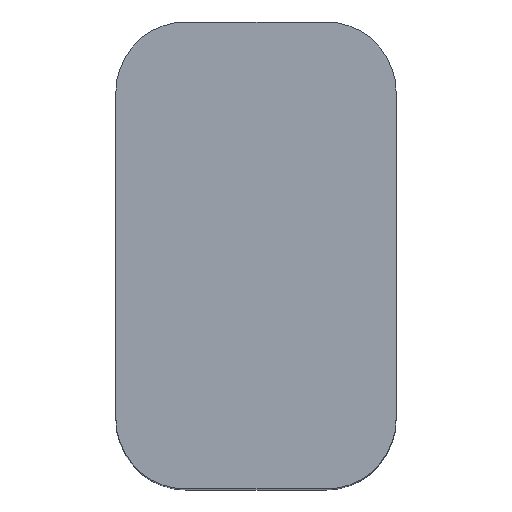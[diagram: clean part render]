
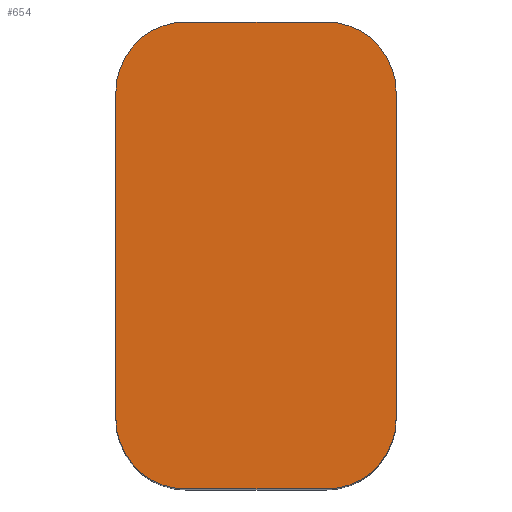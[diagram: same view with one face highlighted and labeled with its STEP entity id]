
A CAD part, top view. The second image highlights one B-rep face of the part: STEP entity #654.
In plain terms, the highlighted planar face has unit normal (0, 0, 1).
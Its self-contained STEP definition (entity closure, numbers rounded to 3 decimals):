
#24 = VERTEX_POINT('',#25);
#25 = CARTESIAN_POINT('',(-33.5,-27.1,-13.8));
#32 = PLANE('',#33);
#33 = AXIS2_PLACEMENT_3D('',#34,#35,#36);
#34 = CARTESIAN_POINT('',(-33.5,-27.1,-21.4));
#35 = DIRECTION('',(-1.,0.,0.));
#36 = DIRECTION('',(0.,1.,0.));
#44 = CYLINDRICAL_SURFACE('',#45,0.9);
#45 = AXIS2_PLACEMENT_3D('',#46,#47,#48);
#46 = CARTESIAN_POINT('',(-32.6,-27.1,-21.4));
#47 = DIRECTION('',(-0.,-0.,-1.));
#48 = DIRECTION('',(1.,0.,0.));
#56 = EDGE_CURVE('',#24,#57,#59,.T.);
#57 = VERTEX_POINT('',#58);
#58 = CARTESIAN_POINT('',(-33.5,-22.9,-13.8));
#59 = SURFACE_CURVE('',#60,(#64,#71),.PCURVE_S1.);
#60 = LINE('',#61,#62);
#61 = CARTESIAN_POINT('',(-33.5,-25.,-13.8));
#62 = VECTOR('',#63,1.);
#63 = DIRECTION('',(0.,1.,0.));
#64 = PCURVE('',#32,#65);
#65 = DEFINITIONAL_REPRESENTATION('',(#66),#70);
#66 = LINE('',#67,#68);
#67 = CARTESIAN_POINT('',(2.1,-7.6));
#68 = VECTOR('',#69,1.);
#69 = DIRECTION('',(1.,0.));
#70 = ( GEOMETRIC_REPRESENTATION_CONTEXT(2) 
PARAMETRIC_REPRESENTATION_CONTEXT() REPRESENTATION_CONTEXT('2D SPACE',''
  ) );
#71 = PCURVE('',#72,#77);
#72 = PLANE('',#73);
#73 = AXIS2_PLACEMENT_3D('',#74,#75,#76);
#74 = CARTESIAN_POINT('',(-31.7,-25.,-13.8));
#75 = DIRECTION('',(0.,0.,1.));
#76 = DIRECTION('',(1.,0.,0.));
#77 = DEFINITIONAL_REPRESENTATION('',(#78),#82);
#78 = LINE('',#79,#80);
#79 = CARTESIAN_POINT('',(-1.8,0.));
#80 = VECTOR('',#81,1.);
#81 = DIRECTION('',(0.,1.));
#82 = ( GEOMETRIC_REPRESENTATION_CONTEXT(2) 
PARAMETRIC_REPRESENTATION_CONTEXT() REPRESENTATION_CONTEXT('2D SPACE',''
  ) );
#100 = CYLINDRICAL_SURFACE('',#101,0.9);
#101 = AXIS2_PLACEMENT_3D('',#102,#103,#104);
#102 = CARTESIAN_POINT('',(-32.6,-22.9,-21.4));
#103 = DIRECTION('',(-0.,-0.,-1.));
#104 = DIRECTION('',(1.,0.,0.));
#142 = EDGE_CURVE('',#24,#143,#145,.T.);
#143 = VERTEX_POINT('',#144);
#144 = CARTESIAN_POINT('',(-32.6,-28.,-13.8));
#145 = SURFACE_CURVE('',#146,(#151,#158),.PCURVE_S1.);
#146 = CIRCLE('',#147,0.9);
#147 = AXIS2_PLACEMENT_3D('',#148,#149,#150);
#148 = CARTESIAN_POINT('',(-32.6,-27.1,-13.8));
#149 = DIRECTION('',(0.,0.,1.));
#150 = DIRECTION('',(1.,0.,0.));
#151 = PCURVE('',#44,#152);
#152 = DEFINITIONAL_REPRESENTATION('',(#153),#157);
#153 = LINE('',#154,#155);
#154 = CARTESIAN_POINT('',(-0.,-7.6));
#155 = VECTOR('',#156,1.);
#156 = DIRECTION('',(-1.,0.));
#157 = ( GEOMETRIC_REPRESENTATION_CONTEXT(2) 
PARAMETRIC_REPRESENTATION_CONTEXT() REPRESENTATION_CONTEXT('2D SPACE',''
  ) );
#158 = PCURVE('',#72,#159);
#159 = DEFINITIONAL_REPRESENTATION('',(#160),#164);
#160 = CIRCLE('',#161,0.9);
#161 = AXIS2_PLACEMENT_2D('',#162,#163);
#162 = CARTESIAN_POINT('',(-0.9,-2.1));
#163 = DIRECTION('',(1.,0.));
#164 = ( GEOMETRIC_REPRESENTATION_CONTEXT(2) 
PARAMETRIC_REPRESENTATION_CONTEXT() REPRESENTATION_CONTEXT('2D SPACE',''
  ) );
#182 = PLANE('',#183);
#183 = AXIS2_PLACEMENT_3D('',#184,#185,#186);
#184 = CARTESIAN_POINT('',(-32.6,-28.,-21.4));
#185 = DIRECTION('',(0.,1.,0.));
#186 = DIRECTION('',(1.,0.,0.));
#220 = EDGE_CURVE('',#143,#221,#223,.T.);
#221 = VERTEX_POINT('',#222);
#222 = CARTESIAN_POINT('',(-30.8,-28.,-13.8));
#223 = SURFACE_CURVE('',#224,(#228,#235),.PCURVE_S1.);
#224 = LINE('',#225,#226);
#225 = CARTESIAN_POINT('',(-31.7,-28.,-13.8));
#226 = VECTOR('',#227,1.);
#227 = DIRECTION('',(1.,0.,0.));
#228 = PCURVE('',#182,#229);
#229 = DEFINITIONAL_REPRESENTATION('',(#230),#234);
#230 = LINE('',#231,#232);
#231 = CARTESIAN_POINT('',(0.9,-7.6));
#232 = VECTOR('',#233,1.);
#233 = DIRECTION('',(1.,0.));
#234 = ( GEOMETRIC_REPRESENTATION_CONTEXT(2) 
PARAMETRIC_REPRESENTATION_CONTEXT() REPRESENTATION_CONTEXT('2D SPACE',''
  ) );
#235 = PCURVE('',#72,#236);
#236 = DEFINITIONAL_REPRESENTATION('',(#237),#241);
#237 = LINE('',#238,#239);
#238 = CARTESIAN_POINT('',(0.,-3.));
#239 = VECTOR('',#240,1.);
#240 = DIRECTION('',(1.,0.));
#241 = ( GEOMETRIC_REPRESENTATION_CONTEXT(2) 
PARAMETRIC_REPRESENTATION_CONTEXT() REPRESENTATION_CONTEXT('2D SPACE',''
  ) );
#259 = CYLINDRICAL_SURFACE('',#260,0.9);
#260 = AXIS2_PLACEMENT_3D('',#261,#262,#263);
#261 = CARTESIAN_POINT('',(-30.8,-27.1,-21.4));
#262 = DIRECTION('',(-0.,-0.,-1.));
#263 = DIRECTION('',(1.,0.,0.));
#296 = EDGE_CURVE('',#221,#297,#299,.T.);
#297 = VERTEX_POINT('',#298);
#298 = CARTESIAN_POINT('',(-29.9,-27.1,-13.8));
#299 = SURFACE_CURVE('',#300,(#305,#312),.PCURVE_S1.);
#300 = CIRCLE('',#301,0.9);
#301 = AXIS2_PLACEMENT_3D('',#302,#303,#304);
#302 = CARTESIAN_POINT('',(-30.8,-27.1,-13.8));
#303 = DIRECTION('',(0.,0.,1.));
#304 = DIRECTION('',(1.,0.,0.));
#305 = PCURVE('',#259,#306);
#306 = DEFINITIONAL_REPRESENTATION('',(#307),#311);
#307 = LINE('',#308,#309);
#308 = CARTESIAN_POINT('',(-0.,-7.6));
#309 = VECTOR('',#310,1.);
#310 = DIRECTION('',(-1.,0.));
#311 = ( GEOMETRIC_REPRESENTATION_CONTEXT(2) 
PARAMETRIC_REPRESENTATION_CONTEXT() REPRESENTATION_CONTEXT('2D SPACE',''
  ) );
#312 = PCURVE('',#72,#313);
#313 = DEFINITIONAL_REPRESENTATION('',(#314),#318);
#314 = CIRCLE('',#315,0.9);
#315 = AXIS2_PLACEMENT_2D('',#316,#317);
#316 = CARTESIAN_POINT('',(0.9,-2.1));
#317 = DIRECTION('',(1.,0.));
#318 = ( GEOMETRIC_REPRESENTATION_CONTEXT(2) 
PARAMETRIC_REPRESENTATION_CONTEXT() REPRESENTATION_CONTEXT('2D SPACE',''
  ) );
#336 = PLANE('',#337);
#337 = AXIS2_PLACEMENT_3D('',#338,#339,#340);
#338 = CARTESIAN_POINT('',(-29.9,-27.1,-21.4));
#339 = DIRECTION('',(-1.,0.,0.));
#340 = DIRECTION('',(0.,1.,0.));
#374 = EDGE_CURVE('',#297,#375,#377,.T.);
#375 = VERTEX_POINT('',#376);
#376 = CARTESIAN_POINT('',(-29.9,-22.9,-13.8));
#377 = SURFACE_CURVE('',#378,(#382,#389),.PCURVE_S1.);
#378 = LINE('',#379,#380);
#379 = CARTESIAN_POINT('',(-29.9,-25.,-13.8));
#380 = VECTOR('',#381,1.);
#381 = DIRECTION('',(0.,1.,0.));
#382 = PCURVE('',#336,#383);
#383 = DEFINITIONAL_REPRESENTATION('',(#384),#388);
#384 = LINE('',#385,#386);
#385 = CARTESIAN_POINT('',(2.1,-7.6));
#386 = VECTOR('',#387,1.);
#387 = DIRECTION('',(1.,0.));
#388 = ( GEOMETRIC_REPRESENTATION_CONTEXT(2) 
PARAMETRIC_REPRESENTATION_CONTEXT() REPRESENTATION_CONTEXT('2D SPACE',''
  ) );
#389 = PCURVE('',#72,#390);
#390 = DEFINITIONAL_REPRESENTATION('',(#391),#395);
#391 = LINE('',#392,#393);
#392 = CARTESIAN_POINT('',(1.8,0.));
#393 = VECTOR('',#394,1.);
#394 = DIRECTION('',(0.,1.));
#395 = ( GEOMETRIC_REPRESENTATION_CONTEXT(2) 
PARAMETRIC_REPRESENTATION_CONTEXT() REPRESENTATION_CONTEXT('2D SPACE',''
  ) );
#413 = CYLINDRICAL_SURFACE('',#414,0.9);
#414 = AXIS2_PLACEMENT_3D('',#415,#416,#417);
#415 = CARTESIAN_POINT('',(-30.8,-22.9,-21.4));
#416 = DIRECTION('',(-0.,-0.,-1.));
#417 = DIRECTION('',(1.,0.,0.));
#450 = EDGE_CURVE('',#375,#451,#453,.T.);
#451 = VERTEX_POINT('',#452);
#452 = CARTESIAN_POINT('',(-30.8,-22.,-13.8));
#453 = SURFACE_CURVE('',#454,(#459,#466),.PCURVE_S1.);
#454 = CIRCLE('',#455,0.9);
#455 = AXIS2_PLACEMENT_3D('',#456,#457,#458);
#456 = CARTESIAN_POINT('',(-30.8,-22.9,-13.8));
#457 = DIRECTION('',(0.,0.,1.));
#458 = DIRECTION('',(1.,0.,0.));
#459 = PCURVE('',#413,#460);
#460 = DEFINITIONAL_REPRESENTATION('',(#461),#465);
#461 = LINE('',#462,#463);
#462 = CARTESIAN_POINT('',(-0.,-7.6));
#463 = VECTOR('',#464,1.);
#464 = DIRECTION('',(-1.,0.));
#465 = ( GEOMETRIC_REPRESENTATION_CONTEXT(2) 
PARAMETRIC_REPRESENTATION_CONTEXT() REPRESENTATION_CONTEXT('2D SPACE',''
  ) );
#466 = PCURVE('',#72,#467);
#467 = DEFINITIONAL_REPRESENTATION('',(#468),#472);
#468 = CIRCLE('',#469,0.9);
#469 = AXIS2_PLACEMENT_2D('',#470,#471);
#470 = CARTESIAN_POINT('',(0.9,2.1));
#471 = DIRECTION('',(1.,0.));
#472 = ( GEOMETRIC_REPRESENTATION_CONTEXT(2) 
PARAMETRIC_REPRESENTATION_CONTEXT() REPRESENTATION_CONTEXT('2D SPACE',''
  ) );
#490 = PLANE('',#491);
#491 = AXIS2_PLACEMENT_3D('',#492,#493,#494);
#492 = CARTESIAN_POINT('',(-32.6,-22.,-21.4));
#493 = DIRECTION('',(0.,1.,0.));
#494 = DIRECTION('',(1.,0.,0.));
#530 = VERTEX_POINT('',#531);
#531 = CARTESIAN_POINT('',(-32.6,-22.,-13.8));
#552 = EDGE_CURVE('',#530,#451,#553,.T.);
#553 = SURFACE_CURVE('',#554,(#558,#565),.PCURVE_S1.);
#554 = LINE('',#555,#556);
#555 = CARTESIAN_POINT('',(-31.7,-22.,-13.8));
#556 = VECTOR('',#557,1.);
#557 = DIRECTION('',(1.,0.,0.));
#558 = PCURVE('',#490,#559);
#559 = DEFINITIONAL_REPRESENTATION('',(#560),#564);
#560 = LINE('',#561,#562);
#561 = CARTESIAN_POINT('',(0.9,-7.6));
#562 = VECTOR('',#563,1.);
#563 = DIRECTION('',(1.,0.));
#564 = ( GEOMETRIC_REPRESENTATION_CONTEXT(2) 
PARAMETRIC_REPRESENTATION_CONTEXT() REPRESENTATION_CONTEXT('2D SPACE',''
  ) );
#565 = PCURVE('',#72,#566);
#566 = DEFINITIONAL_REPRESENTATION('',(#567),#571);
#567 = LINE('',#568,#569);
#568 = CARTESIAN_POINT('',(0.,3.));
#569 = VECTOR('',#570,1.);
#570 = DIRECTION('',(1.,0.));
#571 = ( GEOMETRIC_REPRESENTATION_CONTEXT(2) 
PARAMETRIC_REPRESENTATION_CONTEXT() REPRESENTATION_CONTEXT('2D SPACE',''
  ) );
#599 = EDGE_CURVE('',#530,#57,#600,.T.);
#600 = SURFACE_CURVE('',#601,(#606,#613),.PCURVE_S1.);
#601 = CIRCLE('',#602,0.9);
#602 = AXIS2_PLACEMENT_3D('',#603,#604,#605);
#603 = CARTESIAN_POINT('',(-32.6,-22.9,-13.8));
#604 = DIRECTION('',(0.,0.,1.));
#605 = DIRECTION('',(1.,0.,0.));
#606 = PCURVE('',#100,#607);
#607 = DEFINITIONAL_REPRESENTATION('',(#608),#612);
#608 = LINE('',#609,#610);
#609 = CARTESIAN_POINT('',(-0.,-7.6));
#610 = VECTOR('',#611,1.);
#611 = DIRECTION('',(-1.,0.));
#612 = ( GEOMETRIC_REPRESENTATION_CONTEXT(2) 
PARAMETRIC_REPRESENTATION_CONTEXT() REPRESENTATION_CONTEXT('2D SPACE',''
  ) );
#613 = PCURVE('',#72,#614);
#614 = DEFINITIONAL_REPRESENTATION('',(#615),#619);
#615 = CIRCLE('',#616,0.9);
#616 = AXIS2_PLACEMENT_2D('',#617,#618);
#617 = CARTESIAN_POINT('',(-0.9,2.1));
#618 = DIRECTION('',(1.,0.));
#619 = ( GEOMETRIC_REPRESENTATION_CONTEXT(2) 
PARAMETRIC_REPRESENTATION_CONTEXT() REPRESENTATION_CONTEXT('2D SPACE',''
  ) );
#654 = ADVANCED_FACE('',(#655),#72,.T.);
#655 = FACE_BOUND('',#656,.T.);
#656 = EDGE_LOOP('',(#657,#658,#659,#660,#661,#662,#663,#664));
#657 = ORIENTED_EDGE('',*,*,#56,.F.);
#658 = ORIENTED_EDGE('',*,*,#142,.T.);
#659 = ORIENTED_EDGE('',*,*,#220,.T.);
#660 = ORIENTED_EDGE('',*,*,#296,.T.);
#661 = ORIENTED_EDGE('',*,*,#374,.T.);
#662 = ORIENTED_EDGE('',*,*,#450,.T.);
#663 = ORIENTED_EDGE('',*,*,#552,.F.);
#664 = ORIENTED_EDGE('',*,*,#599,.T.);
